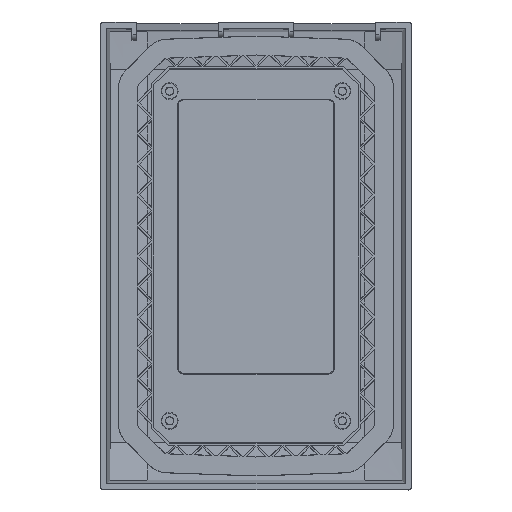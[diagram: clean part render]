
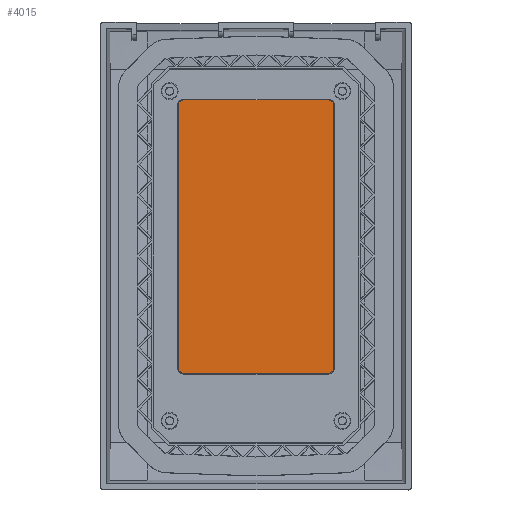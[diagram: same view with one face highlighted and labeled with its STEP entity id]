
A CAD part, front view. The second image highlights one B-rep face of the part: STEP entity #4015.
In plain terms, the highlighted planar face has unit normal (0, -1, 0) as drawn and (0, 0, 1) by its records, which use the part's own axes.
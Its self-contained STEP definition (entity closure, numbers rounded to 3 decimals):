
#404 = VECTOR ( 'NONE', #13889, 1000. ) ;
#575 = CARTESIAN_POINT ( 'NONE',  ( 0., 49.5, 0. ) ) ;
#944 = DIRECTION ( 'NONE',  ( 0., 0., 1. ) ) ;
#2314 = ORIENTED_EDGE ( 'NONE', *, *, #23612, .T. ) ;
#2503 = VERTEX_POINT ( 'NONE', #18513 ) ;
#3200 = DIRECTION ( 'NONE',  ( 1., 0., 0. ) ) ;
#3700 = FACE_OUTER_BOUND ( 'NONE', #24464, .T. ) ;
#4015 = ADVANCED_FACE ( 'NONE', ( #3700 ), #8847, .T. ) ;
#4046 = VECTOR ( 'NONE', #17244, 1000. ) ;
#4411 = CARTESIAN_POINT ( 'NONE',  ( 83.5, -49.5, 0. ) ) ;
#4559 = EDGE_CURVE ( 'NONE', #25358, #2503, #20152, .T. ) ;
#5152 = EDGE_CURVE ( 'NONE', #8763, #7642, #12923, .T. ) ;
#5174 = VECTOR ( 'NONE', #3200, 1000. ) ;
#5582 = DIRECTION ( 'NONE',  ( 0., 0., 1. ) ) ;
#5824 = CIRCLE ( 'NONE', #13336, 3.5 ) ;
#5894 = LINE ( 'NONE', #19876, #404 ) ;
#6260 = EDGE_CURVE ( 'NONE', #11602, #8763, #21258, .T. ) ;
#7066 = CARTESIAN_POINT ( 'NONE',  ( 83.5, 49.5, 0. ) ) ;
#7176 = CARTESIAN_POINT ( 'NONE',  ( -83.5, -49.5, 0. ) ) ;
#7353 = DIRECTION ( 'NONE',  ( 0., 0., 1. ) ) ;
#7642 = VERTEX_POINT ( 'NONE', #23012 ) ;
#7658 = DIRECTION ( 'NONE',  ( -1., 0., 0. ) ) ;
#7890 = EDGE_CURVE ( 'NONE', #14518, #11602, #10648, .T. ) ;
#8763 = VERTEX_POINT ( 'NONE', #11494 ) ;
#8847 = PLANE ( 'NONE',  #23659 ) ;
#8932 = DIRECTION ( 'NONE',  ( -1., 0., 0. ) ) ;
#10648 = LINE ( 'NONE', #23582, #5174 ) ;
#10842 = ORIENTED_EDGE ( 'NONE', *, *, #7890, .T. ) ;
#11318 = ORIENTED_EDGE ( 'NONE', *, *, #4559, .T. ) ;
#11380 = DIRECTION ( 'NONE',  ( 1., 0., 0. ) ) ;
#11494 = CARTESIAN_POINT ( 'NONE',  ( 87., -46., 0. ) ) ;
#11505 = CARTESIAN_POINT ( 'NONE',  ( 83.5, -46., 0. ) ) ;
#11602 = VERTEX_POINT ( 'NONE', #4411 ) ;
#12923 = LINE ( 'NONE', #16233, #25825 ) ;
#13211 = CARTESIAN_POINT ( 'NONE',  ( 0., 0., 0. ) ) ;
#13336 = AXIS2_PLACEMENT_3D ( 'NONE', #21686, #944, #11380 ) ;
#13340 = EDGE_CURVE ( 'NONE', #13486, #25358, #19193, .T. ) ;
#13474 = ORIENTED_EDGE ( 'NONE', *, *, #13340, .T. ) ;
#13486 = VERTEX_POINT ( 'NONE', #7066 ) ;
#13889 = DIRECTION ( 'NONE',  ( 0., -1., 0. ) ) ;
#14518 = VERTEX_POINT ( 'NONE', #7176 ) ;
#15375 = DIRECTION ( 'NONE',  ( 0., 0., 1. ) ) ;
#16233 = CARTESIAN_POINT ( 'NONE',  ( 87., 0., 0. ) ) ;
#16414 = EDGE_CURVE ( 'NONE', #21174, #14518, #5824, .T. ) ;
#17244 = DIRECTION ( 'NONE',  ( -1., 0., 0. ) ) ;
#18476 = DIRECTION ( 'NONE',  ( 0., 1., 0. ) ) ;
#18513 = CARTESIAN_POINT ( 'NONE',  ( -87., 46., 0. ) ) ;
#19104 = DIRECTION ( 'NONE',  ( 1., 0., 0. ) ) ;
#19193 = LINE ( 'NONE', #575, #4046 ) ;
#19379 = ORIENTED_EDGE ( 'NONE', *, *, #16414, .T. ) ;
#19537 = CARTESIAN_POINT ( 'NONE',  ( 83.5, 46., 0. ) ) ;
#19876 = CARTESIAN_POINT ( 'NONE',  ( -87., 0., 0. ) ) ;
#19886 = AXIS2_PLACEMENT_3D ( 'NONE', #24006, #7353, #21790 ) ;
#20152 = CIRCLE ( 'NONE', #19886, 3.5 ) ;
#20158 = ORIENTED_EDGE ( 'NONE', *, *, #20427, .T. ) ;
#20161 = ORIENTED_EDGE ( 'NONE', *, *, #5152, .T. ) ;
#20427 = EDGE_CURVE ( 'NONE', #7642, #13486, #23584, .T. ) ;
#20805 = AXIS2_PLACEMENT_3D ( 'NONE', #11505, #5582, #7658 ) ;
#21174 = VERTEX_POINT ( 'NONE', #22825 ) ;
#21258 = CIRCLE ( 'NONE', #20805, 3.5 ) ;
#21465 = DIRECTION ( 'NONE',  ( 0., 0., 1. ) ) ;
#21686 = CARTESIAN_POINT ( 'NONE',  ( -83.5, -46., 0. ) ) ;
#21790 = DIRECTION ( 'NONE',  ( -1., 0., 0. ) ) ;
#22825 = CARTESIAN_POINT ( 'NONE',  ( -87., -46., 0. ) ) ;
#23012 = CARTESIAN_POINT ( 'NONE',  ( 87., 46., 0. ) ) ;
#23582 = CARTESIAN_POINT ( 'NONE',  ( 0., -49.5, 0. ) ) ;
#23584 = CIRCLE ( 'NONE', #24395, 3.5 ) ;
#23612 = EDGE_CURVE ( 'NONE', #2503, #21174, #5894, .T. ) ;
#23639 = ORIENTED_EDGE ( 'NONE', *, *, #6260, .T. ) ;
#23659 = AXIS2_PLACEMENT_3D ( 'NONE', #13211, #21465, #19104 ) ;
#24006 = CARTESIAN_POINT ( 'NONE',  ( -83.5, 46., 0. ) ) ;
#24395 = AXIS2_PLACEMENT_3D ( 'NONE', #19537, #15375, #8932 ) ;
#24464 = EDGE_LOOP ( 'NONE', ( #2314, #19379, #10842, #23639, #20161, #20158, #13474, #11318 ) ) ;
#25358 = VERTEX_POINT ( 'NONE', #26133 ) ;
#25825 = VECTOR ( 'NONE', #18476, 1000. ) ;
#26133 = CARTESIAN_POINT ( 'NONE',  ( -83.5, 49.5, 0. ) ) ;
